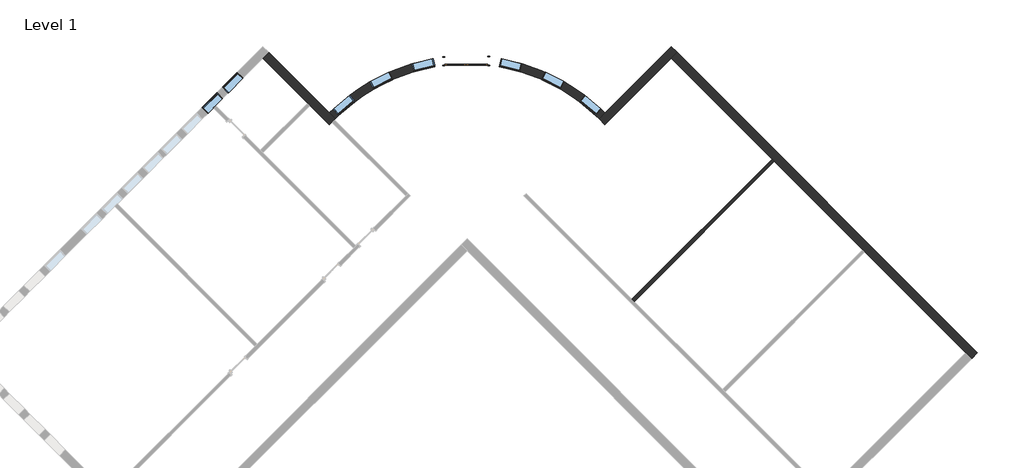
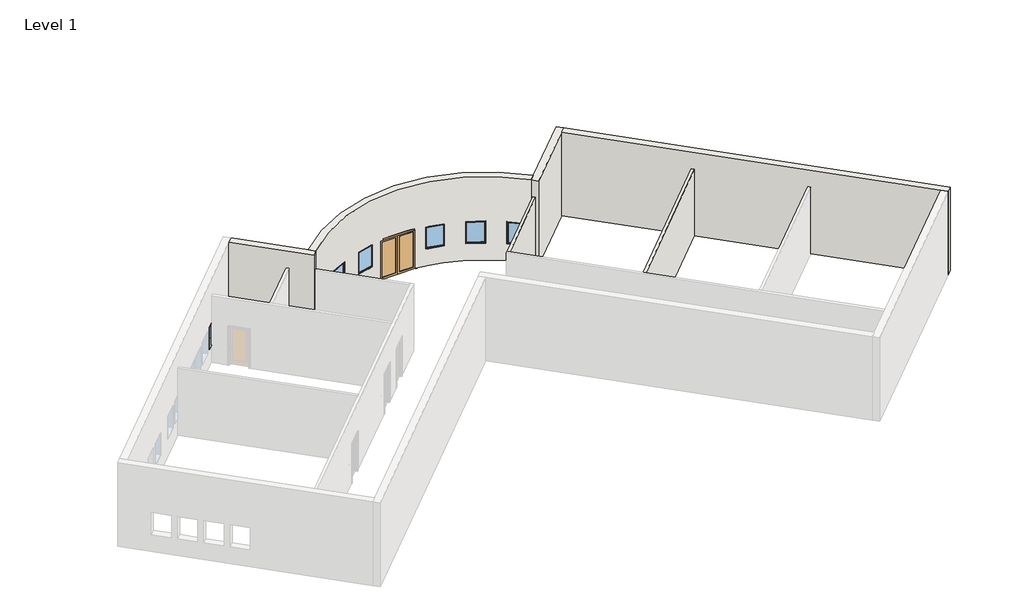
# One storey, part 2 of 2: 8 windows, 6 walls, 1 door.
"""IFC4 building model written with IfcOpenShell, lengths in millimetres."""

import ifcopenshell
import ifcopenshell.guid

model = None  # the IFC model being written
_history = None  # IfcOwnerHistory: only IFC2X3 demands one
_inside = {}  # id of a spatial element -> (the spatial element, [elements in it])
_under = {}  # id of a project, library or spatial element -> (it, [spatial elements below it])
_declared = {}  # id of a project -> (the project, [libraries it declares])
_typed = {}  # id of a type object -> (the type object, [elements of that type])
_made_of = {}  # id of a material, layer set ... -> (it, [elements and type objects made of it])


def new_model(schema):
    """Start an empty IFC model of exactly this schema.

    Asked for "IFC4X3", IfcOpenShell would pick the latest addendum, in which some entities
    have other attributes; the version numbers below select the first issue.
    IFC2X3 requires an IfcOwnerHistory on every rooted entity: one is made here for all.
    """
    global model, _history
    if schema == "IFC4X3":
        model = ifcopenshell.file(schema_version=(4, 3, 0, 0))
    else:
        model = ifcopenshell.file(schema=schema)
    _inside.clear()
    _under.clear()
    _declared.clear()
    _typed.clear()
    _made_of.clear()
    _history = None
    if model.schema == "IFC2X3":
        org = make("IfcOrganization", Name="unknown")
        user = make(
            "IfcPersonAndOrganization",
            ThePerson=make("IfcPerson", FamilyName="unknown"),
            TheOrganization=org,
        )
        app = make(
            "IfcApplication",
            ApplicationDeveloper=org,
            Version="unknown",
            ApplicationFullName="unknown",
            ApplicationIdentifier="unknown",
        )
        _history = make(
            "IfcOwnerHistory",
            OwningUser=user,
            OwningApplication=app,
            ChangeAction="ADDED",
            CreationDate=0,
        )
    return model


def make(cls, **values):
    """One entity of the class cls with the attributes given. An attribute that is None is left unset."""
    return model.create_entity(
        cls, **{name: value for name, value in values.items() if value is not None}
    )


def rooted(cls, **values):
    """An entity with a GlobalId (a new one), such as an element, a storey or a relation."""
    return make(cls, GlobalId=ifcopenshell.guid.new(), OwnerHistory=_history, **values)


def si_unit(unit_type, name, prefix=None):
    """IfcSIUnit, for example si_unit("LENGTHUNIT", "METRE", prefix="MILLI")."""
    return make("IfcSIUnit", UnitType=unit_type, Prefix=prefix, Name=name)


def assignment(units):
    """IfcUnitAssignment: the units of a project."""
    return None if units is None else make("IfcUnitAssignment", Units=units)


def point(xyz):
    """IfcCartesianPoint."""
    return None if xyz is None else make("IfcCartesianPoint", Coordinates=xyz)


def direction(xyz):
    """IfcDirection."""
    return None if xyz is None else make("IfcDirection", DirectionRatios=xyz)


def frame(location, z_axis=None, x_axis=None):
    """IfcAxis2Placement3D, a coordinate frame: its origin and axes. An axis left out is left unset."""
    return make(
        "IfcAxis2Placement3D",
        Location=point(location),
        Axis=direction(z_axis),
        RefDirection=direction(x_axis),
    )


def frame_2d(location, x_axis=None):
    """IfcAxis2Placement2D, a coordinate frame in the plane: its origin and x axis."""
    return make(
        "IfcAxis2Placement2D", Location=point(location), RefDirection=direction(x_axis)
    )


def origin():
    """The frame at (0, 0, 0) with its axes left unset."""
    return frame((0.0, 0.0, 0.0))


def origin_with_axes():
    """The frame at (0, 0, 0) with the z axis (0, 0, 1) and the x axis (1, 0, 0) written out."""
    return frame((0.0, 0.0, 0.0), z_axis=(0.0, 0.0, 1.0), x_axis=(1.0, 0.0, 0.0))


def place(relative_to, where):
    """IfcLocalPlacement: puts the frame where relative to a parent placement (None: the world)."""
    return make(
        "IfcLocalPlacement", PlacementRelTo=relative_to, RelativePlacement=where
    )


def context(
    kind, dimensions, precision=None, world=None, true_north=None, identifier=None
):
    """IfcGeometricRepresentationContext, for example the 3D "Model" context."""
    return make(
        "IfcGeometricRepresentationContext",
        ContextIdentifier=identifier,
        ContextType=kind,
        CoordinateSpaceDimension=dimensions,
        Precision=precision,
        WorldCoordinateSystem=world,
        TrueNorth=true_north,
    )


def project(units=None, contexts=None):
    """IfcProject with its units and contexts."""
    return rooted(
        "IfcProject",
        Name="project",
        RepresentationContexts=contexts,
        UnitsInContext=assignment(units),
    )


def spatial(cls, under=None, at=None, **own):
    """A site, building, storey or space (cls), placed at a placement, below another one or the project."""
    s = rooted(cls, ObjectPlacement=at, **own)
    if under is not None:
        _under.setdefault(under.id(), (under, []))[1].append(s)
    return s


def polyline(points):
    """IfcPolyline through the points."""
    return make("IfcPolyline", Points=[point(p) for p in points])


def circle_curve(where, radius):
    """IfcCircle in the frame where."""
    return make("IfcCircle", Position=where, Radius=radius)


def trimmed(basis, trim1, trim2, sense, master):
    """IfcTrimmedCurve: the piece of a basis curve between two trims."""
    return make(
        "IfcTrimmedCurve",
        BasisCurve=basis,
        Trim1=trim1,
        Trim2=trim2,
        SenseAgreement=sense,
        MasterRepresentation=master,
    )


def segment(curve, same_sense, transition):
    """IfcCompositeCurveSegment."""
    return make(
        "IfcCompositeCurveSegment",
        Transition=transition,
        SameSense=same_sense,
        ParentCurve=curve,
    )


def composite_curve(segments, self_intersect=None):
    """IfcCompositeCurve: segments joined end to end."""
    return make("IfcCompositeCurve", Segments=segments, SelfIntersect=self_intersect)


def outline(outer, holes=None, kind="AREA"):
    """IfcArbitraryClosedProfileDef: a profile drawn as a closed curve; with holes, ...WithVoids."""
    if holes is None:
        return make("IfcArbitraryClosedProfileDef", ProfileType=kind, OuterCurve=outer)
    return make(
        "IfcArbitraryProfileDefWithVoids",
        ProfileType=kind,
        OuterCurve=outer,
        InnerCurves=holes,
    )


def extrude(swept, where, along, depth):
    """IfcExtrudedAreaSolid: the profile swept, set in the frame where, extruded along a direction by depth."""
    return make(
        "IfcExtrudedAreaSolid",
        SweptArea=swept,
        Position=where,
        ExtrudedDirection=direction(along),
        Depth=depth,
    )


def faces_of(points, faces, orient=None, outer=None):
    """IfcFace entities. A face is a list of loops; a loop is a list of indices into points, from 0.

    orient and outer hold one flag for each loop. By default every Orientation is true, the
    first loop of a face is its IfcFaceOuterBound and the others are IfcFaceBound.
    """
    made = []
    for i, loops in enumerate(faces):
        bounds = []
        for j, loop in enumerate(loops):
            is_outer = j == 0 if outer is None else outer[i][j]
            bounds.append(
                make(
                    "IfcFaceOuterBound" if is_outer else "IfcFaceBound",
                    Bound=make("IfcPolyLoop", Polygon=[points[k] for k in loop]),
                    Orientation=True if orient is None else orient[i][j],
                )
            )
        made.append(make("IfcFace", Bounds=bounds))
    return made


def faceted_brep(points, faces, orient=None, outer=None, voids=None):
    """IfcFacetedBrep: a solid bounded by flat faces; with voids (closed shells), ...WithVoids."""
    shared = [point(p) for p in points]
    hull = make("IfcClosedShell", CfsFaces=faces_of(shared, faces, orient, outer))
    if voids is None:
        return make("IfcFacetedBrep", Outer=hull)
    return make(
        "IfcFacetedBrepWithVoids",
        Outer=hull,
        Voids=[
            make(cls, CfsFaces=faces_of(shared, fs, o, b)) for cls, fs, o, b in voids
        ],
    )


def shape(context_of_items, identifier, shape_type, items):
    """IfcShapeRepresentation: the items that make up one representation, for example the "Body"."""
    return make(
        "IfcShapeRepresentation",
        ContextOfItems=context_of_items,
        RepresentationIdentifier=identifier,
        RepresentationType=shape_type,
        Items=items,
    )


def source(mapping_origin, context_of_items, identifier, shape_type, items):
    """IfcRepresentationMap: a shape defined once, which mapped items show again and again."""
    return make(
        "IfcRepresentationMap",
        MappingOrigin=mapping_origin,
        MappedRepresentation=shape(context_of_items, identifier, shape_type, items),
    )


def transform(
    local_origin,
    x_axis=None,
    y_axis=None,
    z_axis=None,
    scale=None,
    scale2=None,
    scale3=None,
    uniform=True,
):
    """IfcCartesianTransformationOperator3D, or its non-uniform kind. x_axis, y_axis, z_axis: its Axis1, 2, 3."""
    if uniform:
        return make(
            "IfcCartesianTransformationOperator3D",
            Axis1=direction(x_axis),
            Axis2=direction(y_axis),
            LocalOrigin=point(local_origin),
            Scale=scale,
            Axis3=direction(z_axis),
        )
    return make(
        "IfcCartesianTransformationOperator3DnonUniform",
        Axis1=direction(x_axis),
        Axis2=direction(y_axis),
        LocalOrigin=point(local_origin),
        Scale=scale,
        Axis3=direction(z_axis),
        Scale2=scale2,
        Scale3=scale3,
    )


def mapped(mapping_source, mapping_target):
    """IfcMappedItem: shows the shape of a source again, moved by a transform."""
    return make(
        "IfcMappedItem", MappingSource=mapping_source, MappingTarget=mapping_target
    )


def made_of(thing, what):
    """Note that an element or type object is made of a material, layer set ...; save() writes the relation."""
    if what is not None:
        _made_of.setdefault(what.id(), (what, []))[1].append(thing)
    return thing


def element(
    cls,
    number,
    at=None,
    inside=None,
    cuts=None,
    type_object=None,
    material=None,
    context=None,
    identifier="Body",
    shape_type=None,
    held_by="IfcProductDefinitionShape",
    body=None,
    shapes=None,
    **own,
):
    """One element of the class cls, such as IfcWall. Its Tag is "e" and its number.

    at: its placement. inside: the storey or other place that contains it. cuts: it is an
    opening in that element (IfcRelVoidsElement). A single representation is given by context,
    identifier, shape_type and body (its items); several are given by shapes. held_by: the class
    of the entity that holds the representations. save() writes the other relations.
    """
    e = rooted(cls, Tag="e%d" % number, ObjectPlacement=at, **own)
    if body is not None:
        shapes = [shape(context, identifier, shape_type, body)]
    if shapes is not None:
        e.Representation = make(held_by, Representations=shapes)
    if inside is not None:
        _inside.setdefault(inside.id(), (inside, []))[1].append(e)
    if cuts is not None:
        rooted(
            "IfcRelVoidsElement", RelatingBuildingElement=cuts, RelatedOpeningElement=e
        )
    if type_object is not None:
        _typed.setdefault(type_object.id(), (type_object, []))[1].append(e)
    return made_of(e, material)


def aggregate(whole, parts):
    """IfcRelAggregates: a whole, such as a stair, and the parts it consists of."""
    return rooted("IfcRelAggregates", RelatingObject=whole, RelatedObjects=parts)


def save(model, path):
    """Write the relations noted so far, then the file.

    IfcRelAggregates (storeys below a building ...), IfcRelContainedInSpatialStructure (elements
    in a storey), IfcRelDefinesByType, IfcRelAssociatesMaterial and IfcRelDeclares: one each for
    every whole, place, type object, material and project.
    """
    for whole, parts in _under.values():
        aggregate(whole, parts)
    for where, things in _inside.values():
        rooted(
            "IfcRelContainedInSpatialStructure",
            RelatedElements=things,
            RelatingStructure=where,
        )
    for kind, things in _typed.values():
        rooted("IfcRelDefinesByType", RelatedObjects=things, RelatingType=kind)
    for what, things in _made_of.values():
        rooted("IfcRelAssociatesMaterial", RelatedObjects=things, RelatingMaterial=what)
    for by, libraries in _declared.values():
        rooted("IfcRelDeclares", RelatingContext=by, RelatedDefinitions=libraries)
    model.write(path)


def plane_surface(at):
    """IfcPlane: the flat surface through the origin of the frame at, square to its z axis."""
    return make("IfcPlane", Position=at)


def cylinder_surface(at, radius):
    """IfcCylindricalSurface: all points at the distance radius from the z axis of the frame at."""
    return make("IfcCylindricalSurface", Position=at, Radius=radius)


def revolved_surface(curve, axis_point, axis_direction):
    """IfcSurfaceOfRevolution: the curve turned about the line through axis_point along axis_direction."""
    return make(
        "IfcSurfaceOfRevolution",
        SweptCurve=make("IfcArbitraryOpenProfileDef", ProfileType="CURVE", Curve=curve),
        AxisPosition=make("IfcAxis1Placement", Location=point(axis_point), Axis=direction(axis_direction)),
    )


def advanced_brep(points, edges, surfaces, faces):
    """IfcAdvancedBrep: a solid bounded by faces that lie on surfaces and meet in shared edges.

    An edge is (start, end): straight between two places in points (the first is 0);
    or (start, end, curve); or (start, end, curve, False) where it runs against its curve.
    A face is (place in surfaces, loops), or (place, loops, False) where it looks against
    its surface's normal. A loop lists edges by number (the first is 1), with a minus sign
    where the edge is run from its end to its start. The first loop is the outer one.
    """
    corners = [point(p) for p in points]
    vertices = [make("IfcVertexPoint", VertexGeometry=c) for c in corners]
    made = []
    for start, end, *more in edges:
        made.append(
            make(
                "IfcEdgeCurve",
                EdgeStart=vertices[start],
                EdgeEnd=vertices[end],
                EdgeGeometry=more[0] if more else make("IfcPolyline", Points=[corners[start], corners[end]]),
                SameSense=more[1] if len(more) > 1 else True,
            )
        )
    hull = []
    for where, loops, *sense in faces:
        bounds = []
        for j, loop in enumerate(loops):
            ring = [make("IfcOrientedEdge", EdgeElement=made[abs(k) - 1], Orientation=k > 0) for k in loop]
            bounds.append(
                make(
                    "IfcFaceOuterBound" if j == 0 else "IfcFaceBound",
                    Bound=make("IfcEdgeLoop", EdgeList=ring),
                    Orientation=True,
                )
            )
        hull.append(make("IfcAdvancedFace", Bounds=bounds, FaceSurface=surfaces[where], SameSense=sense[0] if sense else True))
    return make("IfcAdvancedBrep", Outer=make("IfcClosedShell", CfsFaces=hull))


def m_door_double_glass_1830_x_2134_8faf7e2f(model_context):
    return source(origin(), model_context, "Body", "SweptSolid", [
        extrude(outline(polyline([(2134.0, -915.0), (0.0, -915.0), (0.0, 0.0), (2134.0, 0.0), (2134.0, -915.0)]), holes=[polyline([(2034.0, -815.0), (2034.0, -100.0), (100.0, -100.0), (100.0, -815.0), (2034.0, -815.0)])]), frame((0.0, 127.38125, 0.0), z_axis=(0.0, 1.0, 0.0), x_axis=(0.0, 0.0, 1.0)), (0.0, 0.0, 1.0), 50.0),
        extrude(outline(polyline([(2134.0, 915.0), (2134.0, 0.0), (0.0, 0.0), (0.0, 915.0), (2134.0, 915.0)]), holes=[polyline([(2034.0, 815.0), (100.0, 815.0), (100.0, 100.0), (2034.0, 100.0), (2034.0, 815.0)])]), frame((0.0, 127.38125, 0.0), z_axis=(0.0, 1.0, 0.0), x_axis=(0.0, 0.0, 1.0)), (0.0, 0.0, 1.0), 50.0),
        extrude(outline(polyline([(100.0, 155.55625), (815.0, 155.55625), (815.0, 149.20625), (100.0, 149.20625), (100.0, 155.55625)])), frame((0.0, 0.0, 100.0), z_axis=(0.0, 0.0, 1.0), x_axis=(1.0, 0.0, 0.0)), (0.0, 0.0, 1.0), 1934.0),
        extrude(outline(polyline([(-815.0, 155.55625), (-100.0, 155.55625), (-100.0, 149.20625), (-815.0, 149.20625), (-815.0, 155.55625)])), frame((0.0, 0.0, 100.0), z_axis=(0.0, 0.0, 1.0), x_axis=(1.0, 0.0, 0.0)), (0.0, 0.0, 1.0), 1934.0),
        extrude(outline(polyline([(0.0, 995.0), (2214.0, 995.0), (2214.0, -995.0), (0.0, -995.0), (0.0, -915.0), (2134.0, -915.0), (2134.0, 915.0), (0.0, 915.0), (0.0, 995.0)])), frame((0.0, 177.38125, 0.0), z_axis=(0.0, 1.0, 0.0), x_axis=(0.0, 0.0, 1.0)), (0.0, 0.0, 1.0), 25.0),
        extrude(outline(polyline([(0.0, 995.0), (2214.0, 995.0), (2214.0, -995.0), (0.0, -995.0), (0.0, -915.0), (2134.0, -915.0), (2134.0, 915.0), (0.0, 915.0), (0.0, 995.0)])), frame((0.0, -197.61875, 0.0), z_axis=(0.0, 1.0, 0.0), x_axis=(0.0, 0.0, 1.0)), (0.0, 0.0, 1.0), 25.0),
    ])


def m_fixed_0915_x_1220mm_bde29121(model_context):
    return source(origin(), model_context, "Body", "SweptSolid", [
        extrude(outline(polyline([(-394.5, 153.0), (394.5, 153.0), (394.5, 141.0), (-394.5, 141.0), (-394.5, 153.0)])), frame((0.0, 0.0, 978.0), z_axis=(0.0, 0.0, 1.0), x_axis=(1.0, 0.0, 0.0)), (0.0, 0.0, 1.0), 1094.0),
        extrude(outline(polyline([(2116.0, -438.5), (934.0, -438.5), (934.0, 438.5), (2116.0, 438.5), (2116.0, -438.5)]), holes=[polyline([(2072.0, -394.5), (2072.0, 394.5), (978.0, 394.5), (978.0, -394.5), (2072.0, -394.5)])]), frame((0.0, 125.0, 0.0), z_axis=(0.0, 1.0, 0.0), x_axis=(0.0, 0.0, 1.0)), (0.0, 0.0, 1.0), 44.0),
        extrude(outline(polyline([(2135.0, -457.5), (915.0, -457.5), (915.0, 457.5), (2135.0, 457.5), (2135.0, -457.5)]), holes=[polyline([(2116.0, -438.5), (2116.0, 438.5), (934.0, 438.5), (934.0, -438.5), (2116.0, -438.5)])]), frame((0.0, 125.0, 0.0), z_axis=(0.0, 1.0, 0.0), x_axis=(0.0, 0.0, 1.0)), (0.0, 0.0, 1.0), 63.0),
        extrude(outline(polyline([(2135.0, -457.5), (915.0, -457.5), (915.0, 457.5), (2135.0, 457.5), (2135.0, -457.5)]), holes=[polyline([(2103.0, -425.5), (2103.0, 425.5), (947.0, 425.5), (947.0, -425.5), (2103.0, -425.5)])]), frame((0.0, -162.0, 0.0), z_axis=(0.0, 1.0, 0.0), x_axis=(0.0, 0.0, 1.0)), (0.0, 0.0, 1.0), 287.0),
    ])


def m_fixed_0915_x_1220mm_2a2509e7(model_context):
    return source(origin(), model_context, "Body", "SweptSolid", [
        extrude(outline(polyline([(-394.5, -153.0), (-394.5, -141.0), (394.5, -141.0), (394.5, -153.0), (-394.5, -153.0)])), frame((0.0, 0.0, 978.0), z_axis=(0.0, 0.0, 1.0), x_axis=(1.0, 0.0, 0.0)), (0.0, 0.0, 1.0), 1094.0),
        extrude(outline(polyline([(2116.0, -438.5), (934.0, -438.5), (934.0, 438.5), (2116.0, 438.5), (2116.0, -438.5)]), holes=[polyline([(2072.0, -394.5), (2072.0, 394.5), (978.0, 394.5), (978.0, -394.5), (2072.0, -394.5)])]), frame((0.0, -169.0, 0.0), z_axis=(0.0, 1.0, 0.0), x_axis=(0.0, 0.0, 1.0)), (0.0, 0.0, 1.0), 44.0),
        extrude(outline(polyline([(2135.0, -457.5), (915.0, -457.5), (915.0, 457.5), (2135.0, 457.5), (2135.0, -457.5)]), holes=[polyline([(2116.0, -438.5), (2116.0, 438.5), (934.0, 438.5), (934.0, -438.5), (2116.0, -438.5)])]), frame((0.0, -188.0, 0.0), z_axis=(0.0, 1.0, 0.0), x_axis=(0.0, 0.0, 1.0)), (0.0, 0.0, 1.0), 63.0),
        extrude(outline(polyline([(2135.0, -457.5), (915.0, -457.5), (915.0, 457.5), (2135.0, 457.5), (2135.0, -457.5)]), holes=[polyline([(2103.0, -425.5), (2103.0, 425.5), (947.0, 425.5), (947.0, -425.5), (2103.0, -425.5)])]), frame((0.0, -125.0, 0.0), z_axis=(0.0, 1.0, 0.0), x_axis=(0.0, 0.0, 1.0)), (0.0, 0.0, 1.0), 287.0),
    ])


model = new_model("IFC4")

# Units and contexts
model_context = context("Model", 3, world=origin())
ifc_project = project(units=[si_unit("LENGTHUNIT", "METRE", prefix="MILLI")], contexts=[model_context])

# Site, building, storey
site = spatial("IfcSite", under=ifc_project)
building = spatial("IfcBuilding", under=site)
storey = spatial("IfcBuildingStorey", under=building, Name="Level 1", Elevation=0.0)

# Door
placement = place(None, origin())
m_door_double_glass_1830_x_2134_shape = m_door_double_glass_1830_x_2134_8faf7e2f(model_context)
element("IfcDoor", 1, ObjectType="M_Door-Double-Glass : 1830 x 2134", at=placement, inside=storey, context=model_context, shape_type="MappedRepresentation", body=[
    mapped(m_door_double_glass_1830_x_2134_shape, transform((-1635.4651954, 10000.9380636, 0.0), x_axis=(-0.999990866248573, -0.004274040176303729, 0.0), y_axis=(0.004274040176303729, -0.999990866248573, 0.0), z_axis=(0.0, 0.0, 1.0))),
])

# Walls
element("IfcWall", 2, ObjectType="Exterior - Brick on Mtl. Stud", at=placement, inside=storey, context=model_context, shape_type="AdvancedBrep", body=[
    advanced_brep(
    [(4212.7441701, 7313.6674352, 4572.0), (4212.7441701, 7313.6674352, 0.0), (7019.8001803, 10120.7234455, 0.0), (7267.2875537, 10368.2108189, 0.0), (7267.2875537, 10368.2108189, 4572.0), (7019.8001803, 10120.7234455, 4572.0), (3970.7557398, 7566.6537518, 0.0), (3970.7557398, 7566.6537518, 4572.0), (4218.2431133, 7814.1411252, 4572.0), (7019.8001803, 10615.6981923, 4572.0), (7019.8001803, 10615.6981923, 0.0), (4218.2431133, 7814.1411252, 0.0), (4109.8638796, 7423.9826013, 0.0), (4013.5506313, 7523.5275434, 0.0)],
    [
        (0, 1),
        (1, 2),
        (2, 3),
        (3, 4),
        (4, 5),
        (5, 0),
        (6, 7),
        (7, 8),
        (8, 9),
        (9, 10),
        (10, 11),
        (11, 6),
        (1, 12, circle_curve(frame((-1601.2456959, 1994.6523161, 0.0), z_axis=(0.0, 0.0, 1.0), x_axis=(1.0, 0.0, 0.0)), 7880.0)),
        (12, 13, circle_curve(frame((-1601.2456959, 1994.6523161, 0.0), z_axis=(0.0, 0.0, 1.0), x_axis=(1.0, 0.0, 0.0)), 7879.9999955)),
        (13, 6, circle_curve(frame((-1601.2456959, 1994.6523161, 0.0), z_axis=(0.0, 0.0, 1.0), x_axis=(1.0, 0.0, 0.0)), 7879.9999413)),
        (10, 3),
        (4, 9),
        (7, 0, circle_curve(frame((-1601.2456959, 1994.6523161, 4572.0), z_axis=(0.0, 0.0, -1.0), x_axis=(1.0, 0.0, 0.0)), 7880.0)),
    ],
    [
        plane_surface(frame((4250.0629184, 7350.9861836, 0.0), z_axis=(0.7071067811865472, -0.7071067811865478, 0.0), x_axis=(0.7071067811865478, 0.7071067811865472, 0.0))),
        plane_surface(frame((4002.575545, 7598.473557, 0.0), z_axis=(-0.7071067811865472, 0.7071067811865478, 0.0), x_axis=(-0.7071067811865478, -0.7071067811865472, 0.0))),
        plane_surface(frame((4340.6424361, 7441.5657013, 0.0), z_axis=(0.0, 0.0, -1.0), x_axis=(-0.7071067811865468, 0.7071067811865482, 0.0))),
        plane_surface(frame((7143.543867, 10244.4671322, 4572.0), z_axis=(0.0, 0.0, 1.0), x_axis=(-0.707106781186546, 0.7071067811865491, 0.0))),
        plane_surface(frame((7019.8001803, 10615.6981923, 0.0), z_axis=(0.7071067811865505, 0.7071067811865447, 0.0), x_axis=(-0.7071067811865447, 0.7071067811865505, 0.0))),
        revolved_surface(polyline([(6278.7543041, 1994.6523161, 0.0), (6278.7543041, 1994.6523161, 4572.0)]), (-1601.2456959, 1994.6523161, 0.0), (0.0, 0.0, -1.0)),
    ],
    [
        (0, [[1, 2, 3, 4, 5, 6]]),
        (1, [[7, 8, 9, 10, 11, 12]]),
        (2, [[-3, -2, 13, 14, 15, -12, -11, 16]]),
        (3, [[-6, -5, 17, -9, -8, 18]]),
        (4, [[-4, -16, -10, -17]]),
        (5, [[-18, -7, -15, -14, -13, -1]]),
    ],
),
])
element("IfcWall", 3, ObjectType="Exterior - Brick on Mtl. Stud", at=placement, inside=storey, context=model_context, shape_type="Brep", body=[
    faceted_brep([(7019.8001803, 10120.7234455, 0.0), (11281.3559738, 5859.167652, 0.0), (11379.290263, 5761.2333628, 0.0), (15096.9041651, 2043.6194607, 0.0), (15194.8384543, 1945.6851715, 0.0), (19456.3942478, -2315.870622, 0.0), (19703.8816212, -2563.3579955, 0.0), (19703.8816212, -2563.3579955, 4572.0), (19456.3942478, -2315.870622, 4572.0), (7019.8001803, 10120.7234455, 4572.0), (7267.2875537, 10368.2108189, 0.0), (7267.2875537, 10368.2108189, 4572.0), (19951.3689947, -2315.870622, 4572.0), (19951.3689947, -2315.870622, 0.0)], [[[0, 1, 2, 3, 4, 5, 6, 7, 8, 9]], [[10, 11, 12, 13]], [[6, 5, 4, 3, 2, 1, 0, 10, 13]], [[9, 8, 7, 12, 11]], [[0, 9, 11, 10]], [[7, 6, 13, 12]]]),
])
element("IfcWall", 4, ObjectType="Exterior - Brick on Mtl. Stud", at=placement, inside=storey, context=model_context, shape_type="AdvancedBrep", body=[
    advanced_brep(
    [(-10222.2915721, 10120.7234455, 0.0), (-8331.6648159, 8230.0966893, 0.0), (-8233.7305267, 8132.1624001, 0.0), (-7415.2355619, 7313.6674352, 0.0), (-7415.2355619, 7313.6674352, 4572.0), (-10222.2915721, 10120.7234455, 4572.0), (-9974.8041987, 10368.2108189, 0.0), (-9974.8041987, 10368.2108189, 4572.0), (-7420.7345051, 7814.1411252, 4572.0), (-7173.2471317, 7566.6537518, 4572.0), (-7173.2471317, 7566.6537518, 0.0), (-7420.7345051, 7814.1411252, 0.0), (-7216.0420231, 7523.5275434, 0.0), (-7312.3552714, 7423.9826013, 0.0)],
    [
        (0, 1),
        (1, 2),
        (2, 3),
        (3, 4),
        (4, 5),
        (5, 0),
        (6, 7),
        (7, 8),
        (8, 9),
        (9, 10),
        (10, 11),
        (11, 6),
        (0, 6),
        (10, 12, circle_curve(frame((-1601.2456959, 1994.6523161, 0.0), z_axis=(0.0, 0.0, 1.0), x_axis=(1.0, 0.0, 0.0)), 7880.0)),
        (12, 13, circle_curve(frame((-1601.2456959, 1994.6523161, 0.0), z_axis=(0.0, 0.0, 1.0), x_axis=(1.0, 0.0, 0.0)), 7879.9999413)),
        (13, 3, circle_curve(frame((-1601.2456959, 1994.6523161, 0.0), z_axis=(0.0, 0.0, 1.0), x_axis=(1.0, 0.0, 0.0)), 7879.9999955)),
        (4, 9, circle_curve(frame((-1601.2456959, 1994.6523161, 4572.0), z_axis=(0.0, 0.0, -1.0), x_axis=(1.0, 0.0, 0.0)), 7880.0)),
        (7, 5),
    ],
    [
        plane_surface(frame((-10469.7789456, 10368.2108189, 0.0), z_axis=(-0.7071067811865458, -0.7071067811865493, 0.0), x_axis=(0.7071067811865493, -0.7071067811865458, 0.0))),
        plane_surface(frame((-10222.2915721, 10615.6981923, 0.0), z_axis=(0.7071067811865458, 0.7071067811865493, 0.0), x_axis=(-0.7071067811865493, 0.7071067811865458, 0.0))),
        plane_surface(frame((-10346.0352588, 10244.4671322, 0.0), z_axis=(0.0, 0.0, -1.0000000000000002), x_axis=(0.7071067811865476, 0.7071067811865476, 0.0))),
        plane_surface(frame((-7543.133828, 7441.5657013, 4572.0), z_axis=(0.0, 0.0, 1.0), x_axis=(0.707106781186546, 0.707106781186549, 0.0))),
        plane_surface(frame((-22906.3730131, -2563.3579955, 0.0), z_axis=(-0.7071067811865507, 0.7071067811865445, 0.0), x_axis=(0.7071067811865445, 0.7071067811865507, 0.0))),
        revolved_surface(polyline([(6278.7543041, 1994.6523161, 0.0), (6278.7543041, 1994.6523161, 4572.0)]), (-1601.2456959, 1994.6523161, 0.0), (0.0, 0.0, -1.0)),
    ],
    [
        (0, [[1, 2, 3, 4, 5, 6]]),
        (1, [[7, 8, 9, 10, 11, 12]]),
        (2, [[-3, -2, -1, 13, -12, -11, 14, 15, 16]]),
        (3, [[-5, 17, -9, -8, 18]]),
        (4, [[-6, -18, -7, -13]]),
        (5, [[-16, -15, -14, -10, -17, -4]]),
    ],
),
])
element("IfcWall", 5, ObjectType="Exterior - Brick on Mtl. Stud", at=placement, inside=storey, context=model_context, shape_type="AdvancedBrep", body=[
    advanced_brep(
    [(4218.2431133, 7814.1411252, 4572.0), (-7420.7345051, 7814.1411252, 4572.0), (-7173.2471317, 7566.6537518, 4572.0), (3970.7557398, 7566.6537518, 4572.0), (-7173.2471317, 7566.6537518, 0.0), (-7420.7345051, 7814.1411252, 0.0), (-2551.1946175, 10169.6444902, 0.0), (-2549.688953, 9817.366384, 0.0), (4218.2431133, 7814.1411252, 0.0), (3970.7557398, 7566.6537518, 0.0), (-719.7056677, 9825.1878775, 0.0), (-721.2113323, 10177.4659837, 0.0), (-721.2113323, 10177.4659837, 2134.0), (-2551.1946175, 10169.6444902, 2134.0), (-7259.2688911, 7971.2461222, 2135.0), (-7259.2688911, 7971.2461222, 915.0), (-6560.8584073, 8562.3872188, 915.0), (-6560.8584073, 8562.3872188, 2135.0), (-3929.264468, 9888.5251676, 2135.0), (-3929.264468, 9888.5251676, 915.0), (-3038.6037285, 10098.1640169, 915.0), (-3038.6037285, 10098.1640169, 2135.0), (-5707.7291441, 9126.9516431, 915.0), (-4890.6166492, 9538.7187747, 915.0), (-4890.6166492, 9538.7187747, 2135.0), (-5707.7291441, 9126.9516431, 2135.0), (2505.2377523, 9126.9516431, 915.0), (2505.2377523, 9126.9516431, 2135.0), (1688.1252574, 9538.7187747, 2135.0), (1688.1252574, 9538.7187747, 915.0), (726.7730762, 9888.5251676, 915.0), (726.7730762, 9888.5251676, 2135.0), (-163.8876633, 10098.1640169, 2135.0), (-163.8876633, 10098.1640169, 915.0), (4056.7774992, 7971.2461222, 915.0), (4056.7774992, 7971.2461222, 2135.0), (3358.3670155, 8562.3872188, 2135.0), (3358.3670155, 8562.3872188, 915.0), (-2549.688953, 9817.366384, 2134.0), (-719.7056677, 9825.1878775, 2134.0), (-7032.7835678, 7703.6624182, 915.0), (-7032.7835678, 7703.6624182, 2135.0), (-6334.373084, 8294.8035149, 2135.0), (-6334.373084, 8294.8035149, 915.0), (-3848.9450268, 9547.2841566, 915.0), (-3848.9450268, 9547.2841566, 2135.0), (-2958.2842873, 9756.9230059, 2135.0), (-2958.2842873, 9756.9230059, 915.0), (-5549.9678034, 8813.8893495, 915.0), (-5549.9678034, 8813.8893495, 2135.0), (-4732.8553085, 9225.6564811, 2135.0), (-4732.8553085, 9225.6564811, 915.0), (2347.4764116, 8813.8893495, 915.0), (1530.3639167, 9225.6564811, 915.0), (1530.3639167, 9225.6564811, 2135.0), (2347.4764116, 8813.8893495, 2135.0), (646.453635, 9547.2841566, 915.0), (-244.2071045, 9756.9230059, 915.0), (-244.2071045, 9756.9230059, 2135.0), (646.453635, 9547.2841566, 2135.0), (3830.2921759, 7703.6624182, 915.0), (3131.8816922, 8294.8035149, 915.0), (3131.8816922, 8294.8035149, 2135.0), (3830.2921759, 7703.6624182, 2135.0)],
    [
        (0, 1, circle_curve(frame((-1601.2456959, 1994.6523161, 4572.0), z_axis=(0.0, 0.0, 1.0), x_axis=(1.0, 0.0, 0.0)), 8230.0)),
        (1, 2),
        (2, 3, circle_curve(frame((-1601.2456959, 1994.6523161, 4572.0), z_axis=(0.0, 0.0, -1.0), x_axis=(1.0, 0.0, 0.0)), 7880.0)),
        (3, 0),
        (4, 5),
        (5, 6, circle_curve(frame((-1601.2456959, 1994.6523161, 0.0), z_axis=(0.0, 0.0, -1.0), x_axis=(1.0, 0.0, 0.0)), 8230.0)),
        (6, 7),
        (7, 4, circle_curve(frame((-1601.2456959, 1994.6523161, 0.0), z_axis=(0.0, 0.0, 1.0), x_axis=(1.0, 0.0, 0.0)), 7880.0)),
        (8, 9),
        (9, 10, circle_curve(frame((-1601.2456959, 1994.6523161, 0.0), z_axis=(0.0, 0.0, 1.0), x_axis=(1.0, 0.0, 0.0)), 7880.0)),
        (10, 11),
        (11, 8, circle_curve(frame((-1601.2456959, 1994.6523161, 0.0), z_axis=(0.0, 0.0, -1.0), x_axis=(1.0, 0.0, 0.0)), 8230.0)),
        (0, 8),
        (11, 12),
        (12, 13, circle_curve(frame((-1601.2456959, 1994.6523161, 2134.0), z_axis=(0.0, 0.0, 1.0), x_axis=(1.0, 0.0, 0.0)), 8230.0)),
        (13, 6),
        (5, 1),
        (14, 15),
        (15, 16, circle_curve(frame((-1601.2456959, 1994.6523161, 915.0), z_axis=(0.0, 0.0, -1.0), x_axis=(1.0, 0.0, 0.0)), 8230.0)),
        (16, 17),
        (17, 14, circle_curve(frame((-1601.2456959, 1994.6523161, 2135.0), z_axis=(0.0, 0.0, 1.0), x_axis=(1.0, 0.0, 0.0)), 8230.0)),
        (18, 19),
        (19, 20, circle_curve(frame((-1601.2456959, 1994.6523161, 915.0), z_axis=(0.0, 0.0, -1.0), x_axis=(1.0, 0.0, 0.0)), 8230.0)),
        (20, 21),
        (21, 18, circle_curve(frame((-1601.2456959, 1994.6523161, 2135.0), z_axis=(0.0, 0.0, 1.0), x_axis=(1.0, 0.0, 0.0)), 8230.0)),
        (22, 23, circle_curve(frame((-1601.2456959, 1994.6523161, 915.0), z_axis=(0.0, 0.0, -1.0), x_axis=(1.0, 0.0, 0.0)), 8230.0)),
        (23, 24),
        (24, 25, circle_curve(frame((-1601.2456959, 1994.6523161, 2135.0), z_axis=(0.0, 0.0, 1.0), x_axis=(1.0, 0.0, 0.0)), 8230.0)),
        (25, 22),
        (26, 27),
        (27, 28, circle_curve(frame((-1601.2456959, 1994.6523161, 2135.0), z_axis=(0.0, 0.0, 1.0), x_axis=(1.0, 0.0, 0.0)), 8230.0)),
        (28, 29),
        (29, 26, circle_curve(frame((-1601.2456959, 1994.6523161, 915.0), z_axis=(0.0, 0.0, -1.0), x_axis=(1.0, 0.0, 0.0)), 8230.0)),
        (30, 31),
        (31, 32, circle_curve(frame((-1601.2456959, 1994.6523161, 2135.0), z_axis=(0.0, 0.0, 1.0), x_axis=(1.0, 0.0, 0.0)), 8230.0)),
        (32, 33),
        (33, 30, circle_curve(frame((-1601.2456959, 1994.6523161, 915.0), z_axis=(0.0, 0.0, -1.0), x_axis=(1.0, 0.0, 0.0)), 8230.0)),
        (34, 35),
        (35, 36, circle_curve(frame((-1601.2456959, 1994.6523161, 2135.0), z_axis=(0.0, 0.0, 1.0), x_axis=(1.0, 0.0, 0.0)), 8230.0)),
        (36, 37),
        (37, 34, circle_curve(frame((-1601.2456959, 1994.6523161, 915.0), z_axis=(0.0, 0.0, -1.0), x_axis=(1.0, 0.0, 0.0)), 8230.0)),
        (2, 4),
        (7, 38),
        (38, 39, circle_curve(frame((-1601.2456959, 1994.6523161, 2134.0), z_axis=(0.0, 0.0, -1.0), x_axis=(1.0, 0.0, 0.0)), 7880.0)),
        (39, 10),
        (9, 3),
        (40, 41),
        (41, 42, circle_curve(frame((-1601.2456959, 1994.6523161, 2135.0), z_axis=(0.0, 0.0, -1.0), x_axis=(1.0, 0.0, 0.0)), 7880.0)),
        (42, 43),
        (43, 40, circle_curve(frame((-1601.2456959, 1994.6523161, 915.0), z_axis=(0.0, 0.0, 1.0), x_axis=(1.0, 0.0, 0.0)), 7880.0)),
        (44, 45),
        (45, 46, circle_curve(frame((-1601.2456959, 1994.6523161, 2135.0), z_axis=(0.0, 0.0, -1.0), x_axis=(1.0, 0.0, 0.0)), 7880.0)),
        (46, 47),
        (47, 44, circle_curve(frame((-1601.2456959, 1994.6523161, 915.0), z_axis=(0.0, 0.0, 1.0), x_axis=(1.0, 0.0, 0.0)), 7880.0)),
        (48, 49),
        (49, 50, circle_curve(frame((-1601.2456959, 1994.6523161, 2135.0), z_axis=(0.0, 0.0, -1.0), x_axis=(1.0, 0.0, 0.0)), 7880.0)),
        (50, 51),
        (51, 48, circle_curve(frame((-1601.2456959, 1994.6523161, 915.0), z_axis=(0.0, 0.0, 1.0), x_axis=(1.0, 0.0, 0.0)), 7880.0)),
        (52, 53, circle_curve(frame((-1601.2456959, 1994.6523161, 915.0), z_axis=(0.0, 0.0, 1.0), x_axis=(1.0, 0.0, 0.0)), 7880.0)),
        (53, 54),
        (54, 55, circle_curve(frame((-1601.2456959, 1994.6523161, 2135.0), z_axis=(0.0, 0.0, -1.0), x_axis=(1.0, 0.0, 0.0)), 7880.0)),
        (55, 52),
        (56, 57, circle_curve(frame((-1601.2456959, 1994.6523161, 915.0), z_axis=(0.0, 0.0, 1.0), x_axis=(1.0, 0.0, 0.0)), 7880.0)),
        (57, 58),
        (58, 59, circle_curve(frame((-1601.2456959, 1994.6523161, 2135.0), z_axis=(0.0, 0.0, -1.0), x_axis=(1.0, 0.0, 0.0)), 7880.0)),
        (59, 56),
        (60, 61, circle_curve(frame((-1601.2456959, 1994.6523161, 915.0), z_axis=(0.0, 0.0, 1.0), x_axis=(1.0, 0.0, 0.0)), 7880.0)),
        (61, 62),
        (62, 63, circle_curve(frame((-1601.2456959, 1994.6523161, 2135.0), z_axis=(0.0, 0.0, -1.0), x_axis=(1.0, 0.0, 0.0)), 7880.0)),
        (63, 60),
        (13, 38),
        (12, 39),
        (40, 15),
        (14, 41),
        (17, 42),
        (16, 43),
        (44, 19),
        (18, 45),
        (21, 46),
        (20, 47),
        (48, 22),
        (25, 49),
        (24, 50),
        (23, 51),
        (26, 52),
        (55, 27),
        (54, 28),
        (53, 29),
        (30, 56),
        (59, 31),
        (58, 32),
        (57, 33),
        (34, 60),
        (63, 35),
        (62, 36),
        (61, 37),
    ],
    [
        plane_surface(frame((6628.7543041, 1994.6523161, 4572.0), z_axis=(0.0, 0.0, 1.0), x_axis=(0.0, 1.0, 0.0))),
        plane_surface(frame((6628.7543041, 1994.6523161, 0.0), z_axis=(0.0, 0.0, -1.0), x_axis=(0.0, -1.0, 0.0))),
        cylinder_surface(frame((-1601.2456959, 1994.6523161, 0.0), z_axis=(0.0, 0.0, 1.0), x_axis=(1.0, 0.0, 0.0)), 8230.0),
        revolved_surface(polyline([(6278.7543041, 1994.6523161, 0.0), (6278.7543041, 1994.6523161, 4572.0)]), (-1601.2456959, 1994.6523161, 0.0), (0.0, 0.0, -1.0)),
        plane_surface(frame((-10222.2915721, 10615.6981923, 0.0), z_axis=(-0.7071067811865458, -0.7071067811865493, 0.0), x_axis=(-0.7071067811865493, 0.7071067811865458, 0.0))),
        plane_surface(frame((4002.575545, 7598.473557, 0.0), z_axis=(0.7071067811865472, -0.7071067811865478, 0.0), x_axis=(-0.7071067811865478, -0.7071067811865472, 0.0))),
        plane_surface(frame((-2549.688953, 9817.366384, 0.0), z_axis=(0.999990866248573, 0.004274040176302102, 0.0), x_axis=(-0.004274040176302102, 0.999990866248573, 0.0))),
        plane_surface(frame((-2549.688953, 9817.366384, 2134.0), z_axis=(0.0, 0.0, -1.0), x_axis=(-0.004274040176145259, 0.9999908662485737, 0.0))),
        plane_surface(frame((-719.7056677, 9825.1878775, 2134.0), z_axis=(-0.999990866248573, -0.004274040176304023, 0.0), x_axis=(-0.004274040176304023, 0.999990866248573, 0.0))),
        plane_surface(frame((-7032.7835678, 7703.6624182, 915.0), z_axis=(0.763290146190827, 0.6460558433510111, 0.0), x_axis=(-0.6460558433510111, 0.763290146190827, 0.0))),
        plane_surface(frame((-7032.7835678, 7703.6624182, 2135.0), z_axis=(0.0, 0.0, -1.0), x_axis=(-0.646055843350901, 0.76329014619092, 0.0))),
        plane_surface(frame((-6334.373084, 8294.8035149, 2135.0), z_axis=(-0.7632901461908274, -0.6460558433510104, 0.0), x_axis=(-0.6460558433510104, 0.7632901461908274, 0.0))),
        plane_surface(frame((-6334.373084, 8294.8035149, 915.0), z_axis=(0.0, 0.0, 1.0000000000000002), x_axis=(-0.646055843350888, 0.7632901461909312, 0.0))),
        plane_surface(frame((-4278.4334367, 11371.9863337, 915.0), z_axis=(0.9733997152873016, 0.2291134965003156, 0.0), x_axis=(0.2291134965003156, -0.9733997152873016, 0.0))),
        plane_surface(frame((-4278.4334367, 11371.9863337, 2135.0), z_axis=(0.0, 0.0, -1.0), x_axis=(0.2291134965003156, -0.9733997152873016, 0.0))),
        plane_surface(frame((-3387.7726972, 11581.625183, 2135.0), z_axis=(-0.9733997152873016, -0.22911349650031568, 0.0), x_axis=(0.22911349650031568, -0.9733997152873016, 0.0))),
        plane_surface(frame((-3387.7726972, 11581.625183, 915.0), z_axis=(0.0, 0.0, 1.0), x_axis=(0.22911349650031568, -0.9733997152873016, 0.0))),
        plane_surface(frame((-5549.9678034, 8813.8893495, 915.0), z_axis=(0.8930191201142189, 0.4500187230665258, 0.0), x_axis=(-0.4500187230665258, 0.8930191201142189, 0.0))),
        plane_surface(frame((-5549.9678034, 8813.8893495, 2135.0), z_axis=(0.0, 0.0, -1.0), x_axis=(-0.4500187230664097, 0.8930191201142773, 0.0))),
        plane_surface(frame((-4732.8553085, 9225.6564811, 2135.0), z_axis=(-0.8930191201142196, -0.4500187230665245, 0.0), x_axis=(-0.4500187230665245, 0.8930191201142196, 0.0))),
        plane_surface(frame((-4732.8553085, 9225.6564811, 915.0), z_axis=(0.0, 0.0, 1.0000000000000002), x_axis=(-0.45001872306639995, 0.8930191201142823, 0.0))),
        plane_surface(frame((2505.2377523, 9126.9516431, 915.0), z_axis=(-0.8930191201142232, 0.4500187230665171, 0.0), x_axis=(-0.4500187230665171, -0.8930191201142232, 0.0))),
        plane_surface(frame((2505.2377523, 9126.9516431, 2135.0), z_axis=(0.0, 0.0, -1.0), x_axis=(-0.45001872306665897, -0.8930191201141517, 0.0))),
        plane_surface(frame((1688.1252574, 9538.7187747, 2135.0), z_axis=(0.8930191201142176, -0.4500187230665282, 0.0), x_axis=(-0.4500187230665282, -0.8930191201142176, 0.0))),
        plane_surface(frame((1688.1252574, 9538.7187747, 915.0), z_axis=(0.0, 0.0, 1.0), x_axis=(-0.4500187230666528, -0.8930191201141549, 0.0))),
        plane_surface(frame((726.7730762, 9888.5251676, 915.0), z_axis=(-0.9733997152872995, 0.22911349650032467, 0.0), x_axis=(-0.22911349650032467, -0.9733997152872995, 0.0))),
        plane_surface(frame((726.7730762, 9888.5251676, 2135.0), z_axis=(0.0, 0.0, -1.0), x_axis=(-0.22911349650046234, -0.9733997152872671, 0.0))),
        plane_surface(frame((-163.8876633, 10098.1640169, 2135.0), z_axis=(0.9733997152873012, -0.2291134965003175, 0.0), x_axis=(-0.2291134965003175, -0.9733997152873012, 0.0))),
        plane_surface(frame((-163.8876633, 10098.1640169, 915.0), z_axis=(0.0, 0.0, 1.0000000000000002), x_axis=(-0.22911349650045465, -0.973399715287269, 0.0))),
        plane_surface(frame((4056.7774992, 7971.2461222, 915.0), z_axis=(-0.7632901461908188, 0.6460558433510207, 0.0), x_axis=(-0.6460558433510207, -0.7632901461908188, 0.0))),
        plane_surface(frame((4056.7774992, 7971.2461222, 2135.0), z_axis=(0.0, 0.0, -1.0), x_axis=(-0.6460558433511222, -0.7632901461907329, 0.0))),
        plane_surface(frame((3358.3670155, 8562.3872188, 2135.0), z_axis=(0.7632901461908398, -0.646055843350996, 0.0), x_axis=(-0.646055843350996, -0.7632901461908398, 0.0))),
        plane_surface(frame((3358.3670155, 8562.3872188, 915.0), z_axis=(0.0, 0.0, 1.0), x_axis=(-0.6460558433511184, -0.763290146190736, 0.0))),
    ],
    [
        (0, [[1, 2, 3, 4]]),
        (1, [[5, 6, 7, 8]]),
        (1, [[9, 10, 11, 12]]),
        (2, [[-1, 13, -12, 14, 15, 16, -6, 17], [18, 19, 20, 21], [22, 23, 24, 25], [26, 27, 28, 29], [30, 31, 32, 33], [34, 35, 36, 37], [38, 39, 40, 41]]),
        (3, [[-3, 42, -8, 43, 44, 45, -10, 46], [47, 48, 49, 50], [51, 52, 53, 54], [55, 56, 57, 58], [59, 60, 61, 62], [63, 64, 65, 66], [67, 68, 69, 70]]),
        (4, [[-2, -17, -5, -42]]),
        (5, [[-4, -46, -9, -13]]),
        (6, [[-43, -7, -16, 71]]),
        (7, [[-44, -71, -15, 72]]),
        (8, [[-45, -72, -14, -11]]),
        (9, [[-47, 73, -18, 74]]),
        (10, [[-48, -74, -21, 75]]),
        (11, [[-49, -75, -20, 76]]),
        (12, [[-50, -76, -19, -73]]),
        (13, [[77, -22, 78, -51]]),
        (14, [[-78, -25, 79, -52]]),
        (15, [[-79, -24, 80, -53]]),
        (16, [[-77, -54, -80, -23]]),
        (17, [[-55, 81, -29, 82]]),
        (18, [[-56, -82, -28, 83]]),
        (19, [[-57, -83, -27, 84]]),
        (20, [[-58, -84, -26, -81]]),
        (21, [[-30, 85, -62, 86]]),
        (22, [[-31, -86, -61, 87]]),
        (23, [[-32, -87, -60, 88]]),
        (24, [[-33, -88, -59, -85]]),
        (25, [[-34, 89, -66, 90]]),
        (26, [[-35, -90, -65, 91]]),
        (27, [[-36, -91, -64, 92]]),
        (28, [[-37, -92, -63, -89]]),
        (29, [[-38, 93, -70, 94]]),
        (30, [[-39, -94, -69, 95]]),
        (31, [[-40, -95, -68, 96]]),
        (32, [[-41, -96, -67, -93]]),
    ],
),
])
element("IfcWall", 6, ObjectType="Interior - 138mm Partition (1-hr)", at=placement, inside=storey, context=model_context, shape_type="SweptSolid", body=[
    extrude(outline(composite_curve([segment(polyline([(4109.8652288, 7423.9811885), (991.3613173, 4305.477277), (893.4270281, 4403.4115662), (4013.5468892, 7523.5314273)]), True, "CONTINUOUS"), segment(trimmed(circle_curve(frame_2d((-1601.2456959, 1994.6523161)), 7880.0), [point((4013.5468892, 7523.5314273))], [point((4109.8652288, 7423.9811885))], False, "CARTESIAN"), True, "CONTINUOUS")], self_intersect=False)), origin_with_axes(), (0.0, 0.0, 1.0), 3658.0),
])
element("IfcWall", 7, ObjectType="Interior - 138mm Partition (1-hr)", at=placement, inside=storey, context=model_context, shape_type="SweptSolid", body=[
    extrude(outline(polyline([(11379.290263, 5761.2333628), (5457.4477473, -160.609153), (5359.5134581, -62.6748638), (11281.3559738, 5859.167652), (11379.290263, 5761.2333628)])), origin_with_axes(), (0.0, 0.0, 1.0), 3658.0),
])

# Windows
m_fixed_0915_x_1220mm_shape = m_fixed_0915_x_1220mm_bde29121(model_context)
element("IfcWindow", 8, ObjectType="M_Fixed : 0915 x 1220mm", at=placement, inside=storey, context=model_context, shape_type="MappedRepresentation", body=[
    mapped(m_fixed_0915_x_1220mm_shape, transform((3602.9112107, 8143.1636668, 0.0), x_axis=(-0.7632901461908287, 0.646055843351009, 0.0), y_axis=(-0.646055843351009, -0.7632901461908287, 0.0), z_axis=(0.0, 0.0, 1.0))),
])
element("IfcWindow", 9, ObjectType="M_Fixed : 0915 x 1220mm", at=placement, inside=storey, context=model_context, shape_type="MappedRepresentation", body=[
    mapped(m_fixed_0915_x_1220mm_shape, transform((244.32632, 9835.6538384, 0.0), x_axis=(-0.9733997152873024, 0.2291134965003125, 0.0), y_axis=(-0.2291134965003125, -0.9733997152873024, 0.0), z_axis=(0.0, 0.0, 1.0))),
])
element("IfcWindow", 10, ObjectType="M_Fixed : 0915 x 1220mm", at=placement, inside=storey, context=model_context, shape_type="MappedRepresentation", body=[
    mapped(m_fixed_0915_x_1220mm_shape, transform((2023.7784717, 9188.1661114, 0.0), x_axis=(-0.8930191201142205, 0.45001872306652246, 0.0), y_axis=(-0.45001872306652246, -0.8930191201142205, 0.0), z_axis=(0.0, 0.0, 1.0))),
])
m_fixed_0915_x_1220mm_2_shape = m_fixed_0915_x_1220mm_2a2509e7(model_context)
element("IfcWindow", 11, ObjectType="M_Fixed : 0915 x 1220mm", at=placement, inside=storey, context=model_context, shape_type="MappedRepresentation", body=[
    mapped(m_fixed_0915_x_1220mm_2_shape, transform((-6805.4026025, 8143.1636668, 0.0), x_axis=(0.7632901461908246, 0.6460558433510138, 0.0), y_axis=(-0.6460558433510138, 0.7632901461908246, 0.0), z_axis=(0.0, 0.0, 1.0))),
])
element("IfcWindow", 12, ObjectType="M_Fixed : 0915 x 1220mm", at=placement, inside=storey, context=model_context, shape_type="MappedRepresentation", body=[
    mapped(m_fixed_0915_x_1220mm_2_shape, transform((-3446.8177118, 9835.6538384, 0.0), x_axis=(0.973399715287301, 0.2291134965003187, 0.0), y_axis=(-0.2291134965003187, 0.973399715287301, 0.0), z_axis=(0.0, 0.0, 1.0))),
])
element("IfcWindow", 13, ObjectType="M_Fixed : 0915 x 1220mm", at=placement, inside=storey, context=model_context, shape_type="MappedRepresentation", body=[
    mapped(m_fixed_0915_x_1220mm_2_shape, transform((-5226.2698635, 9188.1661114, 0.0), x_axis=(0.8930191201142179, 0.4500187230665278, 0.0), y_axis=(-0.4500187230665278, 0.8930191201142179, 0.0), z_axis=(0.0, 0.0, 1.0))),
])
element("IfcWindow", 14, ObjectType="M_Fixed : 0915 x 1220mm", at=placement, inside=storey, context=model_context, shape_type="MappedRepresentation", body=[
    mapped(m_fixed_0915_x_1220mm_2_shape, transform((-11490.4875842, 9081.6300305, 0.0), x_axis=(-0.7071067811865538, -0.7071067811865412, 0.0), y_axis=(0.7071067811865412, -0.7071067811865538, 0.0), z_axis=(0.0, 0.0, 1.0))),
])
element("IfcWindow", 15, ObjectType="M_Fixed : 0915 x 1220mm", at=placement, inside=storey, context=model_context, shape_type="MappedRepresentation", body=[
    mapped(m_fixed_0915_x_1220mm_2_shape, transform((-12353.1578572, 8218.9597575, 0.0), x_axis=(-0.7071067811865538, -0.7071067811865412, 0.0), y_axis=(0.7071067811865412, -0.7071067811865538, 0.0), z_axis=(0.0, 0.0, 1.0))),
])

save(model, "model.ifc")
